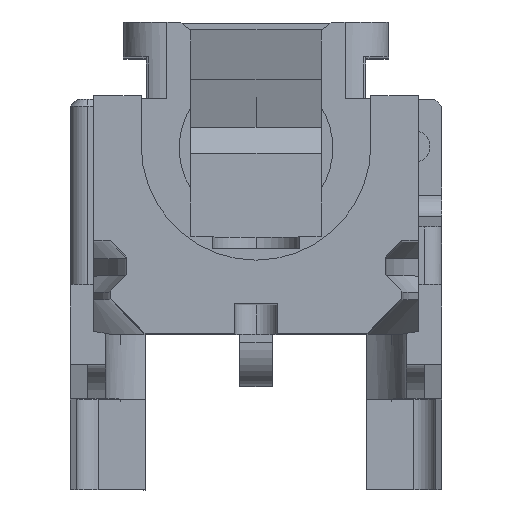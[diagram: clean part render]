
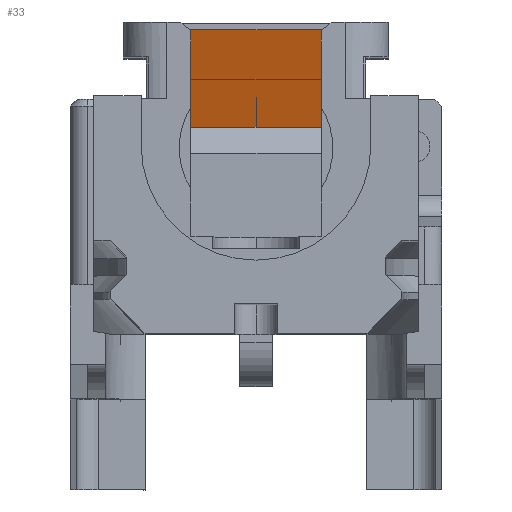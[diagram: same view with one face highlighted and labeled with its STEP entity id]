
A CAD part, top view. The second image highlights one B-rep face of the part: STEP entity #33.
In plain terms, the highlighted planar face has unit normal (0, -0.301, 0.954).
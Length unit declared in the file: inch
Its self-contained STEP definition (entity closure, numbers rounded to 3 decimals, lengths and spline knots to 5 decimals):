
#33 = ADVANCED_FACE ( 'NONE', ( #4805 ), #4804, .F. ) ;
#34 = EDGE_LOOP ( 'NONE', ( #35, #38, #71, #74, #77, #80, #83, #57, #59 ) ) ;
#35 = ORIENTED_EDGE ( 'NONE', *, *, #36, .F. ) ;
#36 = EDGE_CURVE ( 'NONE', #37, #3295, #4799, .T. ) ;
#37 = VERTEX_POINT ( 'NONE', #4798 ) ;
#38 = ORIENTED_EDGE ( 'NONE', *, *, #39, .F. ) ;
#39 = EDGE_CURVE ( 'NONE', #40, #37, #4847, .T. ) ;
#40 = VERTEX_POINT ( 'NONE', #4843 ) ;
#57 = ORIENTED_EDGE ( 'NONE', *, *, #58, .F. ) ;
#58 = EDGE_CURVE ( 'NONE', #3298, #237, #4868, .T. ) ;
#59 = ORIENTED_EDGE ( 'NONE', *, *, #3297, .F. ) ;
#71 = ORIENTED_EDGE ( 'NONE', *, *, #72, .T. ) ;
#72 = EDGE_CURVE ( 'NONE', #40, #73, #4900, .T. ) ;
#73 = VERTEX_POINT ( 'NONE', #4892 ) ;
#74 = ORIENTED_EDGE ( 'NONE', *, *, #75, .F. ) ;
#75 = EDGE_CURVE ( 'NONE', #76, #73, #4891, .T. ) ;
#76 = VERTEX_POINT ( 'NONE', #4887 ) ;
#77 = ORIENTED_EDGE ( 'NONE', *, *, #78, .T. ) ;
#78 = EDGE_CURVE ( 'NONE', #76, #79, #4886, .T. ) ;
#79 = VERTEX_POINT ( 'NONE', #4941 ) ;
#80 = ORIENTED_EDGE ( 'NONE', *, *, #81, .T. ) ;
#81 = EDGE_CURVE ( 'NONE', #79, #82, #4940, .T. ) ;
#82 = VERTEX_POINT ( 'NONE', #4936 ) ;
#83 = ORIENTED_EDGE ( 'NONE', *, *, #84, .T. ) ;
#84 = EDGE_CURVE ( 'NONE', #82, #237, #4935, .T. ) ;
#237 = VERTEX_POINT ( 'NONE', #5178 ) ;
#3295 = VERTEX_POINT ( 'NONE', #6849 ) ;
#3297 = EDGE_CURVE ( 'NONE', #3295, #3298, #6841, .T. ) ;
#3298 = VERTEX_POINT ( 'NONE', #6846 ) ;
#4794 = CARTESIAN_POINT ( 'NONE',  ( 0., 0.07905, -2.32221 ) ) ;
#4795 = CARTESIAN_POINT ( 'NONE',  ( 0.04307, 0.07905, -2.32221 ) ) ;
#4796 = CARTESIAN_POINT ( 'NONE',  ( 0.08269, -0.00159, -2.34763 ) ) ;
#4797 = CARTESIAN_POINT ( 'NONE',  ( 0.11256, -0.15, -2.39443 ) ) ;
#4798 = CARTESIAN_POINT ( 'NONE',  ( 0.11256, -0.15, -2.39443 ) ) ;
#4799 =( BOUNDED_CURVE ( )  B_SPLINE_CURVE ( 3, ( #4797, #4796, #4795, #4794 ),
 .UNSPECIFIED., .F., .F. ) 
 B_SPLINE_CURVE_WITH_KNOTS ( ( 4, 4 ),
 ( 5.47881, 6.28319 ),
 .UNSPECIFIED. ) 
 CURVE ( )  GEOMETRIC_REPRESENTATION_ITEM ( )  RATIONAL_B_SPLINE_CURVE ( ( 1., 0.947, 0.947, 1. ) ) 
 REPRESENTATION_ITEM ( '' )  );
#4800 = DIRECTION ( 'NONE',  ( 0., 0.954, 0.301 ) ) ;
#4801 = DIRECTION ( 'NONE',  ( 0., 0.301, -0.954 ) ) ;
#4802 = CARTESIAN_POINT ( 'NONE',  ( -0.2755, -0.64, -2.54892 ) ) ;
#4803 = AXIS2_PLACEMENT_3D ( 'NONE', #4802, #4801, #4800 ) ;
#4804 = PLANE ( 'NONE',  #4803 ) ;
#4805 = FACE_OUTER_BOUND ( 'NONE', #34, .T. ) ;
#4843 = CARTESIAN_POINT ( 'NONE',  ( 0.2755, -0.15, -2.39443 ) ) ;
#4844 = DIRECTION ( 'NONE',  ( -1., 0., 0. ) ) ;
#4845 = VECTOR ( 'NONE', #4844, 39.37008 ) ;
#4846 = CARTESIAN_POINT ( 'NONE',  ( -0.2755, -0.15, -2.39443 ) ) ;
#4847 = LINE ( 'NONE', #4846, #4845 ) ;
#4860 = DIRECTION ( 'NONE',  ( -1., 0., 0. ) ) ;
#4861 = VECTOR ( 'NONE', #4860, 39.37008 ) ;
#4862 = CARTESIAN_POINT ( 'NONE',  ( -0.2755, -0.15, -2.39443 ) ) ;
#4868 = LINE ( 'NONE', #4862, #4861 ) ;
#4883 = DIRECTION ( 'NONE',  ( -1., 0., 0. ) ) ;
#4884 = VECTOR ( 'NONE', #4883, 39.37008 ) ;
#4885 = CARTESIAN_POINT ( 'NONE',  ( -0.2755, 0.43176, -2.211 ) ) ;
#4886 = LINE ( 'NONE', #4885, #4884 ) ;
#4887 = CARTESIAN_POINT ( 'NONE',  ( 0.281, 0.43176, -2.211 ) ) ;
#4888 = DIRECTION ( 'NONE',  ( 0., -0.954, -0.301 ) ) ;
#4889 = VECTOR ( 'NONE', #4888, 39.37008 ) ;
#4890 = CARTESIAN_POINT ( 'NONE',  ( 0.281, 1.38215, -1.91134 ) ) ;
#4891 = LINE ( 'NONE', #4890, #4889 ) ;
#4892 = CARTESIAN_POINT ( 'NONE',  ( 0.281, -0.15, -2.39443 ) ) ;
#4893 = DIRECTION ( 'NONE',  ( 1., 0., 0. ) ) ;
#4894 = VECTOR ( 'NONE', #4893, 39.37008 ) ;
#4895 = CARTESIAN_POINT ( 'NONE',  ( 0.281, -0.15, -2.39443 ) ) ;
#4900 = LINE ( 'NONE', #4895, #4894 ) ;
#4932 = DIRECTION ( 'NONE',  ( 1., 0., 0. ) ) ;
#4933 = VECTOR ( 'NONE', #4932, 39.37008 ) ;
#4934 = CARTESIAN_POINT ( 'NONE',  ( 0.281, -0.15, -2.39443 ) ) ;
#4935 = LINE ( 'NONE', #4934, #4933 ) ;
#4936 = CARTESIAN_POINT ( 'NONE',  ( -0.281, -0.15, -2.39443 ) ) ;
#4937 = DIRECTION ( 'NONE',  ( 0., -0.954, -0.301 ) ) ;
#4938 = VECTOR ( 'NONE', #4937, 39.37008 ) ;
#4939 = CARTESIAN_POINT ( 'NONE',  ( -0.281, 1.38215, -1.91134 ) ) ;
#4940 = LINE ( 'NONE', #4939, #4938 ) ;
#4941 = CARTESIAN_POINT ( 'NONE',  ( -0.281, 0.43176, -2.211 ) ) ;
#5178 = CARTESIAN_POINT ( 'NONE',  ( -0.2755, -0.15, -2.39443 ) ) ;
#6841 =( BOUNDED_CURVE ( )  B_SPLINE_CURVE ( 3, ( #6941, #6939, #6937, #6935 ),
 .UNSPECIFIED., .F., .T. ) 
 B_SPLINE_CURVE_WITH_KNOTS ( ( 4, 4 ),
 ( 0., 0.80438 ),
 .UNSPECIFIED. ) 
 CURVE ( )  GEOMETRIC_REPRESENTATION_ITEM ( )  RATIONAL_B_SPLINE_CURVE ( ( 1., 0.947, 0.947, 1. ) ) 
 REPRESENTATION_ITEM ( '' )  );
#6846 = CARTESIAN_POINT ( 'NONE',  ( -0.11256, -0.15, -2.39443 ) ) ;
#6849 = CARTESIAN_POINT ( 'NONE',  ( 0., 0.07905, -2.32221 ) ) ;
#6935 = CARTESIAN_POINT ( 'NONE',  ( -0.11256, -0.15, -2.39443 ) ) ;
#6937 = CARTESIAN_POINT ( 'NONE',  ( -0.08269, -0.00159, -2.34763 ) ) ;
#6939 = CARTESIAN_POINT ( 'NONE',  ( -0.04307, 0.07905, -2.32221 ) ) ;
#6941 = CARTESIAN_POINT ( 'NONE',  ( 0., 0.07905, -2.32221 ) ) ;
